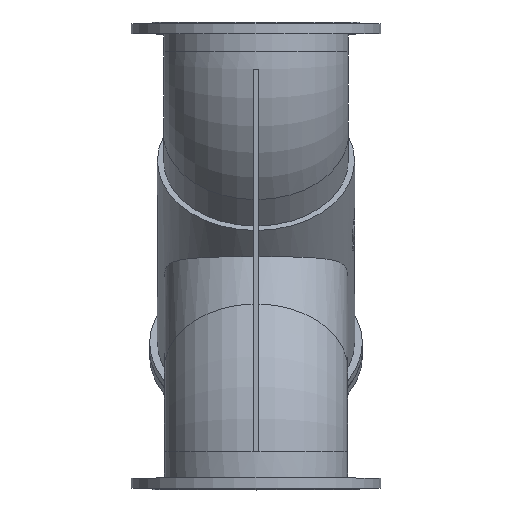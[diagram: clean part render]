
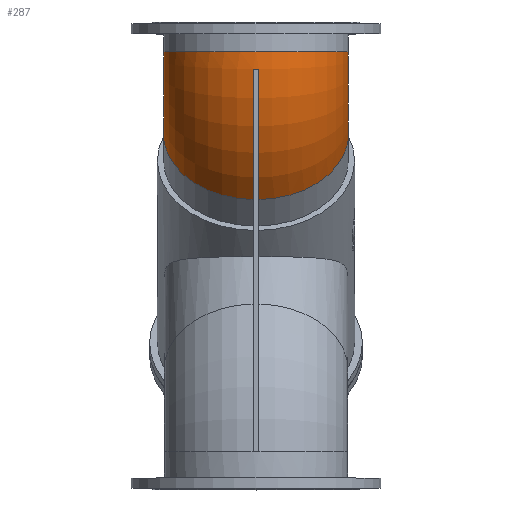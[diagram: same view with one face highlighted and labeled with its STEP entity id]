
A CAD part, top view. The second image highlights one B-rep face of the part: STEP entity #287.
In plain terms, the highlighted toroidal (fillet/blend) face has major radius 300 mm and minor radius 237 mm.
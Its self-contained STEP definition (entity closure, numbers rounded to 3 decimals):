
#287=ADVANCED_FACE('',(#1122,#1124),#1126,.T.);
#1122=FACE_BOUND('',#1123,.T.);
#1123=EDGE_LOOP('',(#2043,#2044,#2045,#2046,#2047));
#1124=FACE_OUTER_BOUND('',#1125,.T.);
#1125=EDGE_LOOP('',(#2048));
#1126=TOROIDAL_SURFACE('',#1127,300.,237.);
#1127=AXIS2_PLACEMENT_3D('',#1128,#1129,#1130);
#1128=CARTESIAN_POINT('',(0.,524.264,-300.));
#1129=DIRECTION('',(1.,0.,0.));
#1130=DIRECTION('',(0.,0.,1.));
#2043=ORIENTED_EDGE('',*,*,#2332,.F.);
#2044=ORIENTED_EDGE('',*,*,#2344,.F.);
#2045=ORIENTED_EDGE('',*,*,#2323,.F.);
#2046=ORIENTED_EDGE('',*,*,#2342,.F.);
#2047=ORIENTED_EDGE('',*,*,#2341,.F.);
#2048=ORIENTED_EDGE('',*,*,#2345,.T.);
#2323=EDGE_CURVE('',#2539,#2541,#2542,.T.);
#2332=EDGE_CURVE('',#2555,#2557,#2558,.F.);
#2341=EDGE_CURVE('',#2557,#2571,#2572,.F.);
#2342=EDGE_CURVE('',#2571,#2539,#2573,.T.);
#2344=EDGE_CURVE('',#2541,#2555,#2575,.T.);
#2345=EDGE_CURVE('',#2576,#2576,#2577,.T.);
#2539=VERTEX_POINT('',#3849);
#2541=VERTEX_POINT('',#3853);
#2542=CIRCLE('',#3854,536.881);
#2555=VERTEX_POINT('',#3887);
#2557=VERTEX_POINT('',#3891);
#2558=CIRCLE('',#3892,536.881);
#2571=VERTEX_POINT('',#3929);
#2572=B_SPLINE_CURVE_WITH_KNOTS('',3,
(#3930,#3931,#3932,#3933,#3934,#3935,#3936,#3937,#3938,#3939,#3940,#3941,#3942,#3943,
#3944,#3945,#3946,#3947,#3948,#3949,#3950,#3951,#3952,#3953,#3954,#3955,#3956,#3957,
#3958,#3959),
.UNSPECIFIED.,.F.,.F.,
(4,1,1,1,1,1,1,1,1,1,1,1,1,1,1,1,1,1,1,1,1,1,1,1,1,1,1,4),
(0.,0.049,0.098,0.146,0.169,0.194,
0.241,0.287,0.333,0.379,0.423,
0.467,0.505,0.511,0.553,0.594,
0.634,0.674,0.712,0.75,0.787,
0.824,0.837,0.859,0.895,0.93,
0.965,1.),
.UNSPECIFIED.);
#2573=B_SPLINE_CURVE_WITH_KNOTS('',3,
(#3960,#3961,#3962,#3963,#3964,#3965,#3966,#3967,#3968,#3969,#3970,#3971,#3972,#3973,
#3974,#3975,#3976,#3977,#3978,#3979,#3980,#3981,#3982,#3983,#3984,#3985,#3986,#3987,
#3988,#3989),
.UNSPECIFIED.,.F.,.F.,
(4,1,1,1,1,1,1,1,1,1,1,1,1,1,1,1,1,1,1,1,1,1,1,1,1,1,1,4),
(0.,0.049,0.098,0.146,0.169,0.194,
0.241,0.287,0.333,0.379,0.423,
0.467,0.505,0.511,0.553,0.594,
0.634,0.674,0.712,0.75,0.787,
0.824,0.837,0.859,0.895,0.93,
0.965,1.),
.UNSPECIFIED.);
#2575=CIRCLE('',#3993,237.);
#2576=VERTEX_POINT('',#3997);
#2577=CIRCLE('',#3998,237.);
#3849=CARTESIAN_POINT('',(-7.5,479.358,235.));
#3853=CARTESIAN_POINT('',(-7.5,144.632,79.632));
#3854=AXIS2_PLACEMENT_3D('',#3855,#3856,#3857);
#3855=CARTESIAN_POINT('',(-7.5,524.264,-300.));
#3856=DIRECTION('',(1.,0.,0.));
#3857=DIRECTION('',(0.,-0.084,0.996));
#3887=CARTESIAN_POINT('',(7.5,144.632,79.632));
#3891=CARTESIAN_POINT('',(7.5,479.358,235.));
#3892=AXIS2_PLACEMENT_3D('',#3893,#3894,#3895);
#3893=CARTESIAN_POINT('',(7.5,524.264,-300.));
#3894=DIRECTION('',(1.,0.,0.));
#3895=DIRECTION('',(0.,-0.084,0.996));
#3929=CARTESIAN_POINT('',(0.,477.961,235.));
#3930=CARTESIAN_POINT('',(0.,477.961,235.));
#3931=CARTESIAN_POINT('',(0.125,477.961,235.));
#3932=CARTESIAN_POINT('',(0.375,477.963,235.));
#3933=CARTESIAN_POINT('',(0.747,477.973,235.));
#3934=CARTESIAN_POINT('',(1.053,477.987,235.));
#3935=CARTESIAN_POINT('',(1.298,478.002,235.));
#3936=CARTESIAN_POINT('',(1.541,478.018,235.));
#3937=CARTESIAN_POINT('',(1.844,478.043,235.));
#3938=CARTESIAN_POINT('',(2.2,478.078,235.));
#3939=CARTESIAN_POINT('',(2.549,478.119,235.));
#3940=CARTESIAN_POINT('',(2.894,478.165,235.));
#3941=CARTESIAN_POINT('',(3.232,478.216,235.));
#3942=CARTESIAN_POINT('',(3.551,478.269,235.));
#3943=CARTESIAN_POINT('',(3.77,478.31,235.));
#3944=CARTESIAN_POINT('',(3.984,478.35,235.));
#3945=CARTESIAN_POINT('',(4.208,478.395,235.));
#3946=CARTESIAN_POINT('',(4.517,478.462,235.));
#3947=CARTESIAN_POINT('',(4.819,478.532,235.));
#3948=CARTESIAN_POINT('',(5.112,478.604,235.));
#3949=CARTESIAN_POINT('',(5.398,478.679,235.));
#3950=CARTESIAN_POINT('',(5.677,478.756,235.));
#3951=CARTESIAN_POINT('',(5.951,478.835,235.));
#3952=CARTESIAN_POINT('',(6.163,478.899,235.));
#3953=CARTESIAN_POINT('',(6.34,478.955,235.));
#3954=CARTESIAN_POINT('',(6.514,479.011,235.));
#3955=CARTESIAN_POINT('',(6.742,479.086,235.));
#3956=CARTESIAN_POINT('',(6.998,479.174,235.));
#3957=CARTESIAN_POINT('',(7.25,479.265,235.));
#3958=CARTESIAN_POINT('',(7.417,479.327,235.));
#3959=CARTESIAN_POINT('',(7.5,479.358,235.));
#3960=CARTESIAN_POINT('',(0.,477.961,235.));
#3961=CARTESIAN_POINT('',(-0.125,477.961,235.));
#3962=CARTESIAN_POINT('',(-0.375,477.963,235.));
#3963=CARTESIAN_POINT('',(-0.747,477.973,235.));
#3964=CARTESIAN_POINT('',(-1.053,477.987,235.));
#3965=CARTESIAN_POINT('',(-1.298,478.002,235.));
#3966=CARTESIAN_POINT('',(-1.541,478.018,235.));
#3967=CARTESIAN_POINT('',(-1.844,478.043,235.));
#3968=CARTESIAN_POINT('',(-2.2,478.078,235.));
#3969=CARTESIAN_POINT('',(-2.549,478.119,235.));
#3970=CARTESIAN_POINT('',(-2.894,478.165,235.));
#3971=CARTESIAN_POINT('',(-3.232,478.216,235.));
#3972=CARTESIAN_POINT('',(-3.551,478.269,235.));
#3973=CARTESIAN_POINT('',(-3.77,478.31,235.));
#3974=CARTESIAN_POINT('',(-3.984,478.35,235.));
#3975=CARTESIAN_POINT('',(-4.208,478.395,235.));
#3976=CARTESIAN_POINT('',(-4.517,478.462,235.));
#3977=CARTESIAN_POINT('',(-4.819,478.532,235.));
#3978=CARTESIAN_POINT('',(-5.112,478.604,235.));
#3979=CARTESIAN_POINT('',(-5.398,478.679,235.));
#3980=CARTESIAN_POINT('',(-5.677,478.756,235.));
#3981=CARTESIAN_POINT('',(-5.951,478.835,235.));
#3982=CARTESIAN_POINT('',(-6.163,478.899,235.));
#3983=CARTESIAN_POINT('',(-6.34,478.955,235.));
#3984=CARTESIAN_POINT('',(-6.514,479.011,235.));
#3985=CARTESIAN_POINT('',(-6.742,479.086,235.));
#3986=CARTESIAN_POINT('',(-6.998,479.174,235.));
#3987=CARTESIAN_POINT('',(-7.25,479.265,235.));
#3988=CARTESIAN_POINT('',(-7.417,479.327,235.));
#3989=CARTESIAN_POINT('',(-7.5,479.358,235.));
#3993=AXIS2_PLACEMENT_3D('',#3994,#3995,#3996);
#3994=CARTESIAN_POINT('',(0.,312.132,-87.868));
#3995=DIRECTION('',(0.,-0.707,-0.707));
#3996=DIRECTION('',(-0.032,-0.707,0.707));
#3997=CARTESIAN_POINT('',(0.,524.264,237.));
#3998=AXIS2_PLACEMENT_3D('',#3999,#4000,#4001);
#3999=CARTESIAN_POINT('',(0.,524.264,0.));
#4000=DIRECTION('',(0.,-1.,0.));
#4001=DIRECTION('',(0.,0.,1.));
